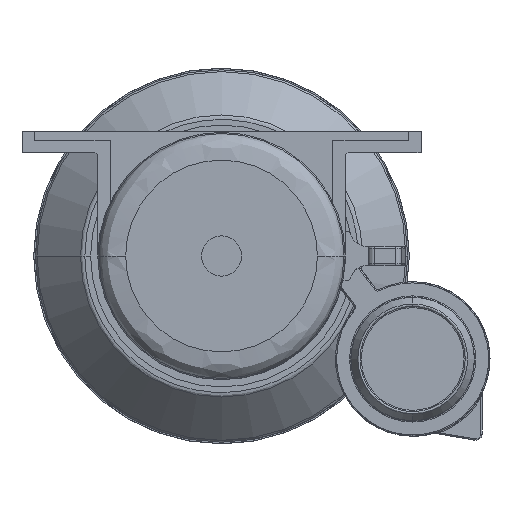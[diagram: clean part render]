
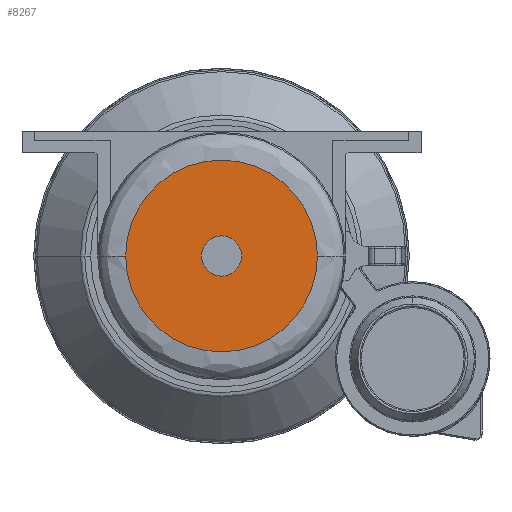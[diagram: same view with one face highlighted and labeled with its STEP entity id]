
A CAD part, front view. The second image highlights one B-rep face of the part: STEP entity #8267.
In plain terms, the highlighted planar face has unit normal (0, -1, 0).
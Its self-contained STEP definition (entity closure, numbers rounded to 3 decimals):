
#336 = DIRECTION ( 'NONE',  ( 0., 0., 1. ) ) ;
#559 = DIRECTION ( 'NONE',  ( 0., 0., 1. ) ) ;
#699 = CARTESIAN_POINT ( 'NONE',  ( 0., -12.75, 3.25 ) ) ;
#701 = CARTESIAN_POINT ( 'NONE',  ( 0., -12.75, 0. ) ) ;
#768 = DIRECTION ( 'NONE',  ( 0., 0., 1. ) ) ;
#895 = CIRCLE ( 'NONE', #9898, 15.498 ) ;
#968 = CARTESIAN_POINT ( 'NONE',  ( 0., -12.75, 0. ) ) ;
#1111 = ORIENTED_EDGE ( 'NONE', *, *, #8533, .F. ) ;
#1411 = VERTEX_POINT ( 'NONE', #1942 ) ;
#1620 = DIRECTION ( 'NONE',  ( 0., 0., 1. ) ) ;
#1838 = DIRECTION ( 'NONE',  ( 0., 1., 0. ) ) ;
#1942 = CARTESIAN_POINT ( 'NONE',  ( -15.498, -12.75, 0. ) ) ;
#2885 = VERTEX_POINT ( 'NONE', #6839 ) ;
#3081 = AXIS2_PLACEMENT_3D ( 'NONE', #5799, #5853, #559 ) ;
#3105 = CIRCLE ( 'NONE', #5273, 3.25 ) ;
#3352 = ORIENTED_EDGE ( 'NONE', *, *, #4631, .F. ) ;
#3468 = CIRCLE ( 'NONE', #7679, 3.25 ) ;
#3521 = VERTEX_POINT ( 'NONE', #699 ) ;
#4374 = FACE_OUTER_BOUND ( 'NONE', #9017, .T. ) ;
#4604 = DIRECTION ( 'NONE',  ( 0., 1., 0. ) ) ;
#4631 = EDGE_CURVE ( 'NONE', #1411, #2885, #895, .T. ) ;
#5273 = AXIS2_PLACEMENT_3D ( 'NONE', #6230, #5528, #1620 ) ;
#5335 = DIRECTION ( 'NONE',  ( 0., 1., 0. ) ) ;
#5519 = EDGE_LOOP ( 'NONE', ( #8615, #7591 ) ) ;
#5528 = DIRECTION ( 'NONE',  ( 0., 1., 0. ) ) ;
#5799 = CARTESIAN_POINT ( 'NONE',  ( 0., -12.75, 0. ) ) ;
#5809 = FACE_BOUND ( 'NONE', #5519, .T. ) ;
#5853 = DIRECTION ( 'NONE',  ( 0., 1., 0. ) ) ;
#5879 = EDGE_CURVE ( 'NONE', #3521, #7791, #3105, .T. ) ;
#6102 = PLANE ( 'NONE',  #7336 ) ;
#6119 = CARTESIAN_POINT ( 'NONE',  ( 0., -12.75, 0. ) ) ;
#6195 = EDGE_CURVE ( 'NONE', #7791, #3521, #3468, .T. ) ;
#6230 = CARTESIAN_POINT ( 'NONE',  ( 0., -12.75, 0. ) ) ;
#6839 = CARTESIAN_POINT ( 'NONE',  ( 15.498, -12.75, 0. ) ) ;
#7336 = AXIS2_PLACEMENT_3D ( 'NONE', #701, #5335, #768 ) ;
#7591 = ORIENTED_EDGE ( 'NONE', *, *, #6195, .T. ) ;
#7679 = AXIS2_PLACEMENT_3D ( 'NONE', #6119, #4604, #8393 ) ;
#7791 = VERTEX_POINT ( 'NONE', #8675 ) ;
#8267 = ADVANCED_FACE ( 'NONE', ( #4374, #5809 ), #6102, .F. ) ;
#8393 = DIRECTION ( 'NONE',  ( 0., 0., 1. ) ) ;
#8533 = EDGE_CURVE ( 'NONE', #2885, #1411, #8926, .T. ) ;
#8615 = ORIENTED_EDGE ( 'NONE', *, *, #5879, .T. ) ;
#8675 = CARTESIAN_POINT ( 'NONE',  ( 0., -12.75, -3.25 ) ) ;
#8926 = CIRCLE ( 'NONE', #3081, 15.498 ) ;
#9017 = EDGE_LOOP ( 'NONE', ( #3352, #1111 ) ) ;
#9898 = AXIS2_PLACEMENT_3D ( 'NONE', #968, #1838, #336 ) ;
